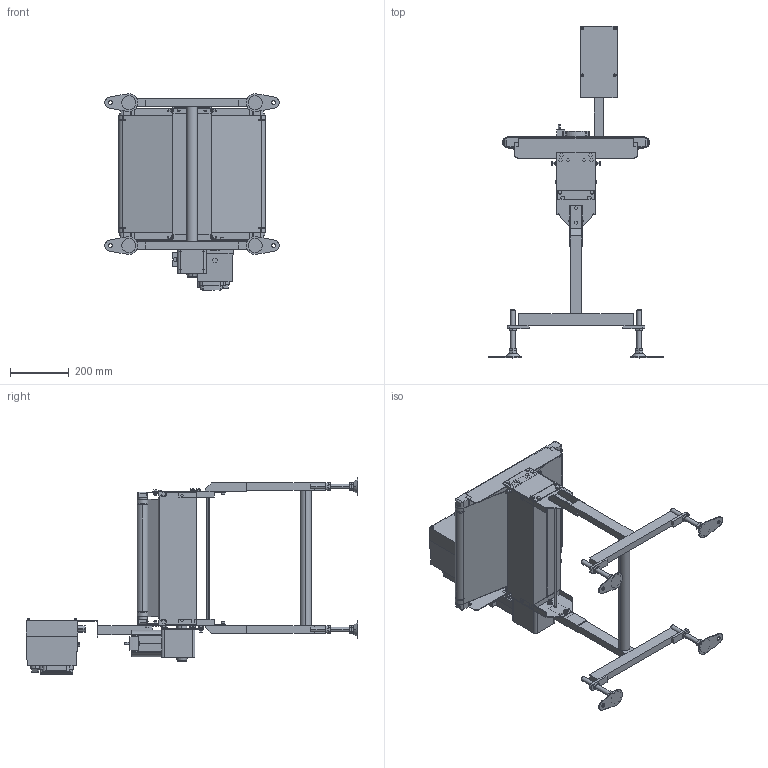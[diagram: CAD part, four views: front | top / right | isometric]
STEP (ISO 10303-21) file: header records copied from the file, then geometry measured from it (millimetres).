
FILE_DESCRIPTION (( 'STEP AP214' ), '1' );
FILE_NAME ('FSDHS-400-500-R.STEP', '2023-04-20T09:13:59', ( '' ), ( '' ), 'SwSTEP 2.0', 'SolidWorks 2017', '' );
FILE_SCHEMA (( 'AUTOMOTIVE_DESIGN' ));
Length unit declared in the file: millimetre
Products named in the file (1): FSDHS-400-500-R
Bounding box: 594 x 1131 x 669.99 mm (x, y, z)
Volume: 18226443.1 mm3; surface area: 3322542.4 mm2
Topology: 46 solids, 48 shells, 1758 faces, 4365 edges, 2866 vertices
Faces by surface type: plane 1175, cylinder 540, cone 29, bspline 14
Entity records: 73980 total; most frequent: CARTESIAN_POINT 11192, DIRECTION 8967, ORIENTED_EDGE 8726, EDGE_CURVE 4363, LINE 3103, VECTOR 3103, AXIS2_PLACEMENT_3D 2932, VERTEX_POINT 2866
